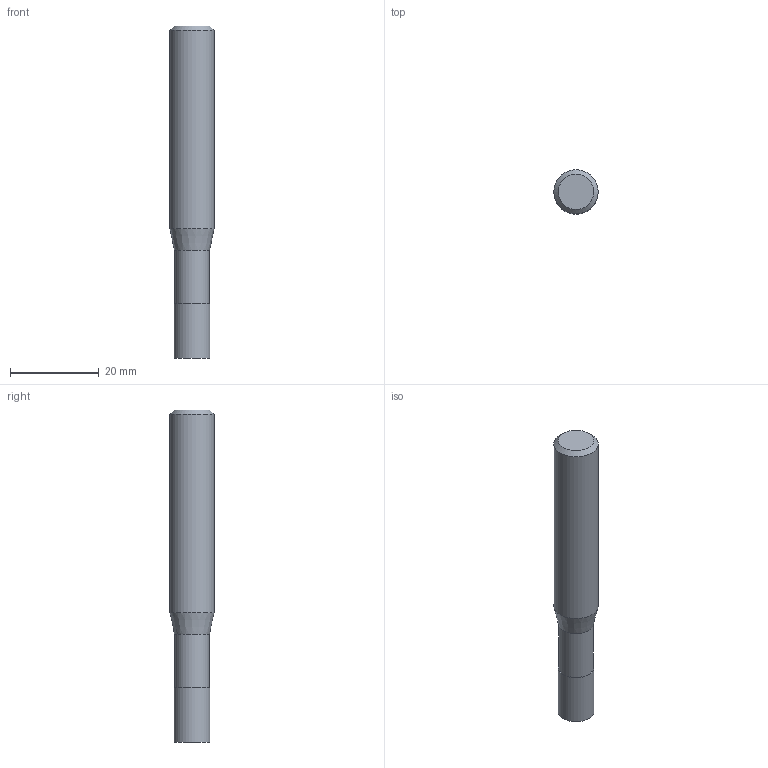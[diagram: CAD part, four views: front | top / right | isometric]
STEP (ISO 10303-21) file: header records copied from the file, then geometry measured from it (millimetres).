
FILE_DESCRIPTION((''),'2;1');
FILE_NAME('C:\Users\nsx150\AppData\Local\Temp\Mastercam 2021\EUJSUNXURU\TEMP.step','2021-04-22T10:29:26',(''),(''),'STEP Write','Mastercam 2021 ... CNC Software, Inc.','');
FILE_SCHEMA(('AUTOMOTIVE_DESIGN'));
Length unit declared in the file: millimetre
Products named in the file (1): None
Bounding box: 10 x 10 x 75 mm (x, y, z)
Volume: 5113.3 mm3; surface area: 2401.3 mm2
Topology: 2 solids, 2 shells, 9 faces, 12 edges, 7 vertices
Faces by surface type: plane 4, cylinder 3, cone 2
Full cylindrical faces by diameter (mm): 7.9 x1, 8.1 x1, 10 x1
Entity records: 211 total; most frequent: DIRECTION 36, CARTESIAN_POINT 25, AXIS2_PLACEMENT_3D 18, ORIENTED_EDGE 14, EDGE_LOOP 14, STYLED_ITEM 12, ADVANCED_FACE 9, FACE_BOUND 8
